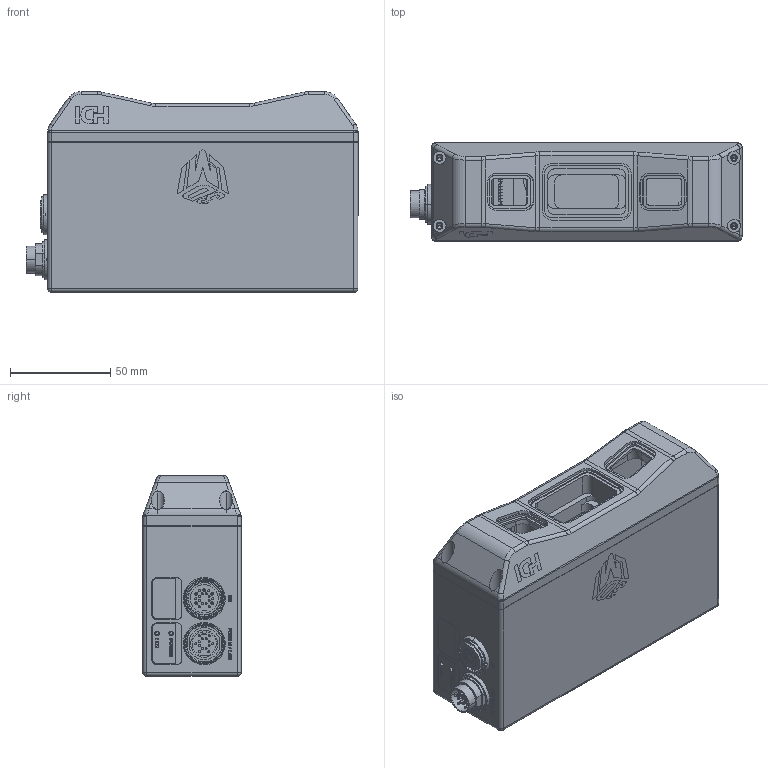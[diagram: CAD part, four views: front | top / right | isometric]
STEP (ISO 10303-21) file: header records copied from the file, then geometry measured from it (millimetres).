
FILE_DESCRIPTION (( 'STEP AP214' ), '1' );
FILE_NAME ('-1.0_DSN_HDI-109.STEP', '2014-05-09T16:27:05', ( '' ), ( '' ), 'SwSTEP 2.0', 'SolidWorks 2014', '' );
FILE_SCHEMA (( 'AUTOMOTIVE_DESIGN' ));
Length unit declared in the file: millimetre
Products named in the file (4): AD16_Simplified; 131884-1.2_HOUSING_HDI_109_Front_Machined_140mm clearance distance; 131881-1.2-HOUSING_HDI_109_Rear_Machined_140mm clearance distance; -1.0_DSN_HDI-109
Assembly tree (3 placements, depth 2):
  -1.0_DSN_HDI-109
    131881-1.2-HOUSING_HDI_109_Rear_Machined_140mm clearance distance
    131884-1.2_HOUSING_HDI_109_Front_Machined_140mm clearance distance
    AD16_Simplified
Bounding box: 165.77 x 49 x 100.2 mm (x, y, z)
Volume: 246346.7 mm3; surface area: 112320.4 mm2
Topology: 24 solids, 24 shells, 1217 faces, 3270 edges, 2194 vertices
Faces by surface type: plane 546, cylinder 396, bspline 194, cone 71, sphere 8, torus 2
Entity records: 51474 total; most frequent: CARTESIAN_POINT 17887, ORIENTED_EDGE 6408, DIRECTION 5626, EDGE_CURVE 3204, VERTEX_POINT 2194, AXIS2_PLACEMENT_3D 1889, LINE 1848, VECTOR 1848
